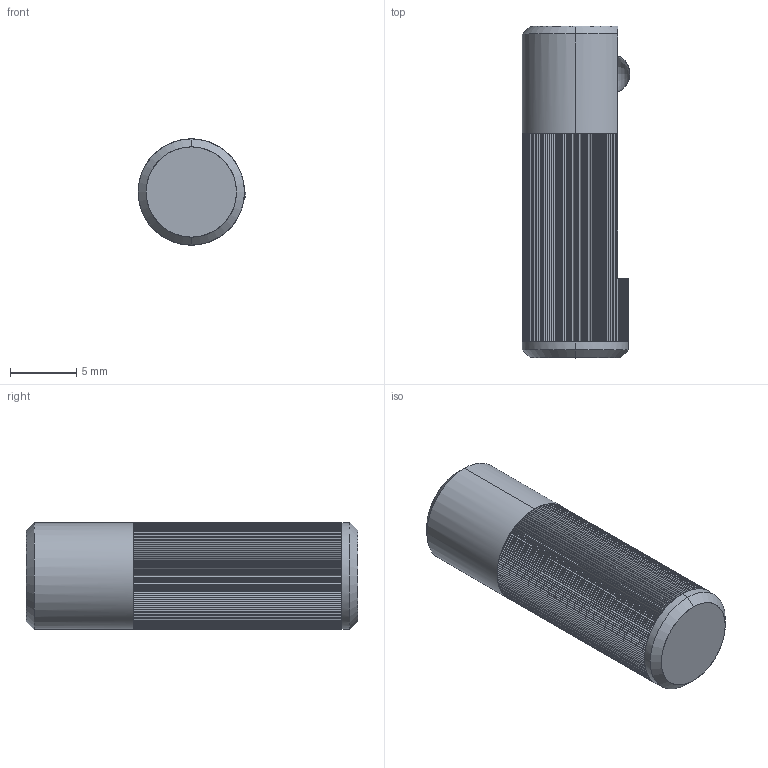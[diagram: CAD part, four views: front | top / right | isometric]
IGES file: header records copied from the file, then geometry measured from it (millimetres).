
Start section: SolidWorks IGES file using analytic representation for surfaces
Global section: file name: C:\Documents and Settings\IANO\Desktop\Temp File\Process pending\NEW\32800_v2\32800_v2_20170703_IGES\32800.W0108.igs; native system: SolidWorks 2009; preprocessor: SolidWorks 2009; author: IANO; date: 170630.124928; units: millimetre
Bounding box: 8.1 x 25 x 8 mm (x, y, z)
Surface area: 1108.5 mm2 (no closed solid volume)
Topology: 0 solids, 0 shells, 587 faces, 2779 edges, 2776 vertices
Faces by surface type: bspline 563, revolution 24
